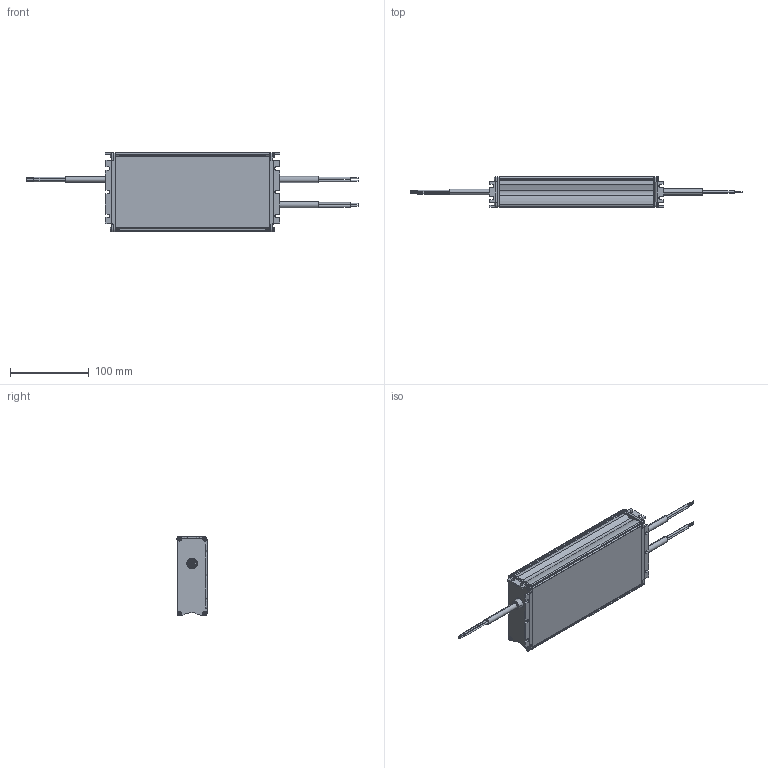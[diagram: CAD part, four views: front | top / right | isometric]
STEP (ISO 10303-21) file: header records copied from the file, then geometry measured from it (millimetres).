
FILE_DESCRIPTION((''),'2;1');
FILE_NAME('DRIVER_JPVO200024FA_ASM','2020-11-26T',('TAYLOR.PH.CHAO'),(''),'CREO PARAMETRIC BY PTC INC, 2018220','CREO PARAMETRIC BY PTC INC, 2018220','');
FILE_SCHEMA(('CONFIG_CONTROL_DESIGN'));
Length unit declared in the file: millimetre
Products named in the file (12): HOUSING_195X100X38_SLIDE; SEALANT_OUTPUT_JPVO200024FA; BRACKET_OUTPUT_JPVO200024FA; T_SCREW_PAN-T3-10L-NI; PWB_JPVO200024FA; SEALANT_INPUT_JPVO200024FA; BRACKET_INPUT_JPVO200024FA; CABLE_INPUT_CC_XXXW; INSULATOR_TOP_JPVO200024FA; CABLE_2X17AWG; SCREW_PAN-M3-10L-NI; DRIVER_JPVO200024FA_ASM
Assembly tree (18 placements, depth 2):
  DRIVER_JPVO200024FA_ASM
    HOUSING_195X100X38_SLIDE
    SEALANT_OUTPUT_JPVO200024FA
    BRACKET_OUTPUT_JPVO200024FA
    T_SCREW_PAN-T3-10L-NI
    PWB_JPVO200024FA
    SEALANT_INPUT_JPVO200024FA
    BRACKET_INPUT_JPVO200024FA
    CABLE_INPUT_CC_XXXW
    INSULATOR_TOP_JPVO200024FA
    CABLE_2X17AWG  x2
    SCREW_PAN-M3-10L-NI  x7
Bounding box: 420.4 x 38.15 x 100.35 mm (x, y, z)
Surface area: 278931.4 mm2 (no closed solid volume)
Topology: 0 solids, 25 shells, 1916 faces, 5179 edges, 3417 vertices
Faces by surface type: plane 1354, cylinder 486, cone 38, torus 32, bspline 6
Entity records: 53078 total; most frequent: CARTESIAN_POINT 10943, ORIENTED_EDGE 8838, DIRECTION 8349, EDGE_CURVE 4419, VECTOR 3587, LINE 3587, VERTEX_POINT 2925, AXIS2_PLACEMENT_3D 2381
